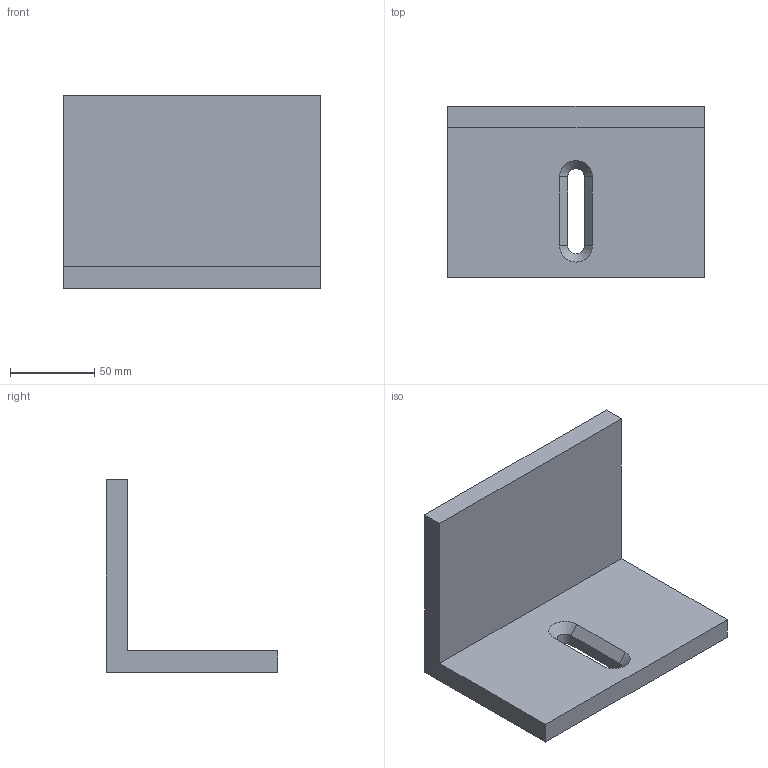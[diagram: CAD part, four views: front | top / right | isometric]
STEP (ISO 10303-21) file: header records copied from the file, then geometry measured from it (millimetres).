
FILE_DESCRIPTION (( 'STEP AP203' ), '1' );
FILE_NAME ('table angle iron rev02.STEP', '2026-03-12T23:44:37', ( '' ), ( '' ), 'SwSTEP 2.0', 'SolidWorks 2025', '' );
FILE_SCHEMA (( 'CONFIG_CONTROL_DESIGN' ));
Length unit declared in the file: inch
Products named in the file (1): table angle iron rev02
Bounding box: 152.4 x 101.6 x 114.3 mm (x, y, z)
Volume: 374071.6 mm3; surface area: 72366.5 mm2
Topology: 1 solids, 1 shells, 22 faces, 50 edges, 32 vertices
Faces by surface type: plane 14, cylinder 6, cone 2
Entity records: 699 total; most frequent: DIRECTION 110, CARTESIAN_POINT 105, ORIENTED_EDGE 100, EDGE_CURVE 50, AXIS2_PLACEMENT_3D 37, LINE 36, VECTOR 36, VERTEX_POINT 32
